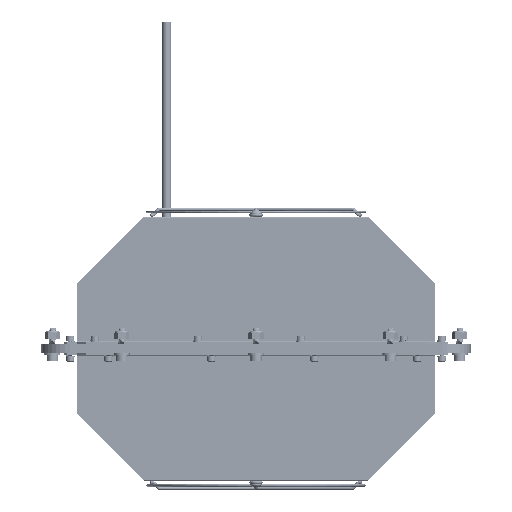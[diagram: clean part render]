
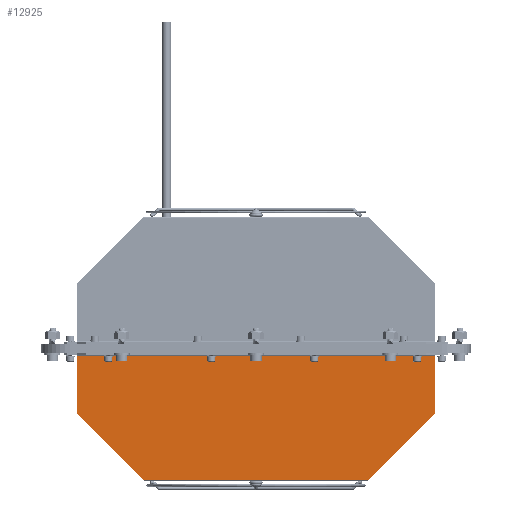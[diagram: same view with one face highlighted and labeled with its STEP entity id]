
A CAD part, left-side view. The second image highlights one B-rep face of the part: STEP entity #12925.
In plain terms, the highlighted planar face has unit normal (-1, 0, 0).
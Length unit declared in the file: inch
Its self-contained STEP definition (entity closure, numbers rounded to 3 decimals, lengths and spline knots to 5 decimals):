
#2162=FACE_OUTER_BOUND('',#2989,.T.);
#2989=EDGE_LOOP('',(#9421,#9422,#9423,#9424,#9425,#9426));
#3908=LINE('',#19619,#4821);
#3915=LINE('',#19636,#4828);
#3961=LINE('',#19774,#4874);
#3962=LINE('',#19776,#4875);
#3963=LINE('',#19777,#4876);
#3964=LINE('',#19778,#4877);
#4821=VECTOR('',#15869,39.37008);
#4828=VECTOR('',#15880,39.37008);
#4874=VECTOR('',#15992,39.37008);
#4875=VECTOR('',#15993,39.37008);
#4876=VECTOR('',#15994,39.37008);
#4877=VECTOR('',#15995,39.37008);
#5762=VERTEX_POINT('',#19617);
#5763=VERTEX_POINT('',#19618);
#5769=VERTEX_POINT('',#19632);
#5771=VERTEX_POINT('',#19635);
#5830=VERTEX_POINT('',#19773);
#5831=VERTEX_POINT('',#19775);
#7116=EDGE_CURVE('',#5762,#5763,#3908,.T.);
#7124=EDGE_CURVE('',#5769,#5771,#3915,.T.);
#7193=EDGE_CURVE('',#5769,#5830,#3961,.T.);
#7194=EDGE_CURVE('',#5830,#5831,#3962,.T.);
#7195=EDGE_CURVE('',#5831,#5762,#3963,.T.);
#7196=EDGE_CURVE('',#5763,#5771,#3964,.T.);
#9421=ORIENTED_EDGE('',*,*,#7193,.T.);
#9422=ORIENTED_EDGE('',*,*,#7194,.T.);
#9423=ORIENTED_EDGE('',*,*,#7195,.T.);
#9424=ORIENTED_EDGE('',*,*,#7116,.T.);
#9425=ORIENTED_EDGE('',*,*,#7196,.T.);
#9426=ORIENTED_EDGE('',*,*,#7124,.F.);
#12581=PLANE('',#13997);
#12925=ADVANCED_FACE('',(#2162),#12581,.F.);
#13997=AXIS2_PLACEMENT_3D('',#19772,#15990,#15991);
#15869=DIRECTION('',(0.,-1.,0.));
#15880=DIRECTION('',(0.,-1.,0.));
#15990=DIRECTION('center_axis',(1.,0.,0.));
#15991=DIRECTION('ref_axis',(0.,1.,0.));
#15992=DIRECTION('',(0.,0.707,-0.707));
#15993=DIRECTION('',(0.,0.,-1.));
#15994=DIRECTION('',(0.,-0.707,-0.707));
#15995=DIRECTION('',(0.,0.,1.));
#19617=CARTESIAN_POINT('',(0.4375,1.6875,0.));
#19618=CARTESIAN_POINT('',(0.4375,0.0825,0.));
#19619=CARTESIAN_POINT('',(0.4375,3.5625,0.));
#19632=CARTESIAN_POINT('',(0.4375,1.6875,10.));
#19635=CARTESIAN_POINT('',(0.4375,0.0825,10.));
#19636=CARTESIAN_POINT('',(0.4375,3.5625,10.));
#19772=CARTESIAN_POINT('Origin',(0.4375,3.5625,10.));
#19773=CARTESIAN_POINT('',(0.4375,3.5325,8.155));
#19774=CARTESIAN_POINT('',(0.4375,2.625,9.0625));
#19775=CARTESIAN_POINT('',(0.4375,3.5325,1.845));
#19776=CARTESIAN_POINT('',(0.4375,3.5325,10.));
#19777=CARTESIAN_POINT('',(0.4375,7.625,5.9375));
#19778=CARTESIAN_POINT('',(0.4375,0.0825,10.));
